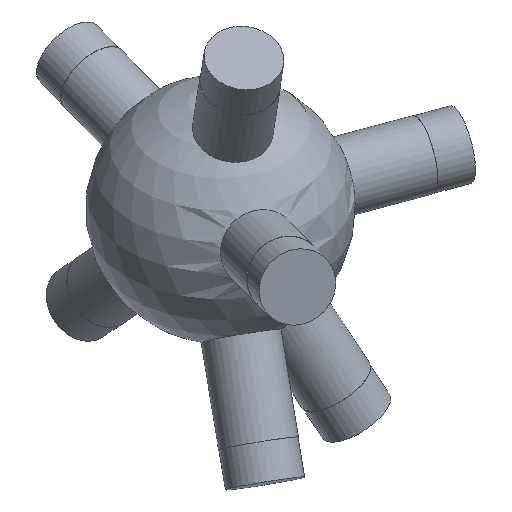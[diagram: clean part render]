
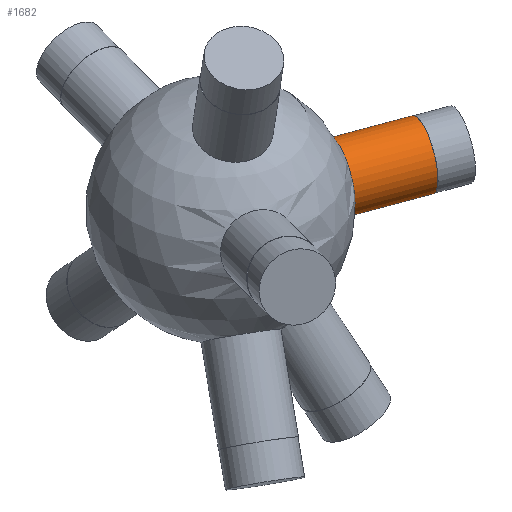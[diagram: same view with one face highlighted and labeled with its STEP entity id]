
A CAD part, isometric view. The second image highlights one B-rep face of the part: STEP entity #1682.
In plain terms, the highlighted cylindrical face has radius 6 mm (diameter 12 mm), a full revolution.
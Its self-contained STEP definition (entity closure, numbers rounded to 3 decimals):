
#37 = SPHERICAL_SURFACE('',#38,20.);
#38 = AXIS2_PLACEMENT_3D('',#39,#40,#41);
#39 = CARTESIAN_POINT('',(0.,0.,0.));
#40 = DIRECTION('',(0.,0.,1.));
#41 = DIRECTION('',(1.,0.,-0.));
#826 = EDGE_CURVE('',#827,#827,#829,.T.);
#827 = VERTEX_POINT('',#828);
#828 = CARTESIAN_POINT('',(19.875,-2.069,
    0.845));
#829 = SURFACE_CURVE('',#830,(#835,#897),.PCURVE_S1.);
#830 = CIRCLE('',#831,6.);
#831 = AXIS2_PLACEMENT_3D('',#832,#833,#834);
#832 = CARTESIAN_POINT('',(17.49,-7.575,
    0.845));
#833 = DIRECTION('',(0.917,-0.397,0.044)
  );
#834 = DIRECTION('',(0.397,0.918,0.));
#835 = PCURVE('',#37,#836);
#836 = DEFINITIONAL_REPRESENTATION('',(#837),#896);
#837 = B_SPLINE_CURVE_WITH_KNOTS('',8,(#838,#839,#840,#841,#842,#843,
    #844,#845,#846,#847,#848,#849,#850,#851,#852,#853,#854,#855,#856,
    #857,#858,#859,#860,#861,#862,#863,#864,#865,#866,#867,#868,#869,
    #870,#871,#872,#873,#874,#875,#876,#877,#878,#879,#880,#881,#882,
    #883,#884,#885,#886,#887,#888,#889,#890,#891,#892,#893,#894,#895),
  .UNSPECIFIED.,.F.,.F.,(9,7,7,7,7,7,7,7,9),(0.,0.785,
    1.473,2.074,3.126,3.915,
    4.507,5.395,6.283),.UNSPECIFIED.);
#838 = CARTESIAN_POINT('',(6.179,0.042));
#839 = CARTESIAN_POINT('',(6.18,0.072));
#840 = CARTESIAN_POINT('',(6.177,0.101));
#841 = CARTESIAN_POINT('',(6.171,0.13));
#842 = CARTESIAN_POINT('',(6.162,0.159));
#843 = CARTESIAN_POINT('',(6.15,0.186));
#844 = CARTESIAN_POINT('',(6.135,0.212));
#845 = CARTESIAN_POINT('',(6.116,0.235));
#846 = CARTESIAN_POINT('',(6.077,0.276));
#847 = CARTESIAN_POINT('',(6.057,0.293));
#848 = CARTESIAN_POINT('',(6.035,0.308));
#849 = CARTESIAN_POINT('',(6.011,0.321));
#850 = CARTESIAN_POINT('',(5.986,0.331));
#851 = CARTESIAN_POINT('',(5.96,0.339));
#852 = CARTESIAN_POINT('',(5.933,0.345));
#853 = CARTESIAN_POINT('',(5.882,0.35));
#854 = CARTESIAN_POINT('',(5.858,0.35));
#855 = CARTESIAN_POINT('',(5.834,0.348));
#856 = CARTESIAN_POINT('',(5.81,0.344));
#857 = CARTESIAN_POINT('',(5.787,0.339));
#858 = CARTESIAN_POINT('',(5.764,0.331));
#859 = CARTESIAN_POINT('',(5.742,0.321));
#860 = CARTESIAN_POINT('',(5.686,0.29));
#861 = CARTESIAN_POINT('',(5.654,0.264));
#862 = CARTESIAN_POINT('',(5.626,0.235));
#863 = CARTESIAN_POINT('',(5.604,0.201));
#864 = CARTESIAN_POINT('',(5.587,0.164));
#865 = CARTESIAN_POINT('',(5.575,0.126));
#866 = CARTESIAN_POINT('',(5.57,0.086));
#867 = CARTESIAN_POINT('',(5.569,0.017));
#868 = CARTESIAN_POINT('',(5.573,-0.012));
#869 = CARTESIAN_POINT('',(5.579,-0.042));
#870 = CARTESIAN_POINT('',(5.588,-0.07));
#871 = CARTESIAN_POINT('',(5.601,-0.097));
#872 = CARTESIAN_POINT('',(5.616,-0.123));
#873 = CARTESIAN_POINT('',(5.634,-0.147));
#874 = CARTESIAN_POINT('',(5.671,-0.184));
#875 = CARTESIAN_POINT('',(5.688,-0.199));
#876 = CARTESIAN_POINT('',(5.706,-0.212));
#877 = CARTESIAN_POINT('',(5.725,-0.224));
#878 = CARTESIAN_POINT('',(5.746,-0.234));
#879 = CARTESIAN_POINT('',(5.767,-0.243));
#880 = CARTESIAN_POINT('',(5.789,-0.249));
#881 = CARTESIAN_POINT('',(5.845,-0.261));
#882 = CARTESIAN_POINT('',(5.88,-0.264));
#883 = CARTESIAN_POINT('',(5.915,-0.262));
#884 = CARTESIAN_POINT('',(5.949,-0.256));
#885 = CARTESIAN_POINT('',(5.982,-0.245));
#886 = CARTESIAN_POINT('',(6.014,-0.231));
#887 = CARTESIAN_POINT('',(6.043,-0.213));
#888 = CARTESIAN_POINT('',(6.095,-0.17));
#889 = CARTESIAN_POINT('',(6.118,-0.145));
#890 = CARTESIAN_POINT('',(6.137,-0.118));
#891 = CARTESIAN_POINT('',(6.154,-0.088));
#892 = CARTESIAN_POINT('',(6.166,-0.057));
#893 = CARTESIAN_POINT('',(6.175,-0.024));
#894 = CARTESIAN_POINT('',(6.179,0.009));
#895 = CARTESIAN_POINT('',(6.179,0.042));
#896 = ( GEOMETRIC_REPRESENTATION_CONTEXT(2) 
PARAMETRIC_REPRESENTATION_CONTEXT() REPRESENTATION_CONTEXT('2D SPACE',''
  ) );
#897 = PCURVE('',#898,#903);
#898 = CYLINDRICAL_SURFACE('',#899,6.);
#899 = AXIS2_PLACEMENT_3D('',#900,#901,#902);
#900 = CARTESIAN_POINT('',(0.,0.,0.));
#901 = DIRECTION('',(0.917,-0.397,0.044)
  );
#902 = DIRECTION('',(0.397,0.918,0.));
#903 = DEFINITIONAL_REPRESENTATION('',(#904),#908);
#904 = LINE('',#905,#906);
#905 = CARTESIAN_POINT('',(0.,19.079));
#906 = VECTOR('',#907,1.);
#907 = DIRECTION('',(1.,0.));
#908 = ( GEOMETRIC_REPRESENTATION_CONTEXT(2) 
PARAMETRIC_REPRESENTATION_CONTEXT() REPRESENTATION_CONTEXT('2D SPACE',''
  ) );
#1682 = ADVANCED_FACE('',(#1683),#898,.T.);
#1683 = FACE_BOUND('',#1684,.T.);
#1684 = EDGE_LOOP('',(#1685,#1708,#1735,#1736));
#1685 = ORIENTED_EDGE('',*,*,#1686,.T.);
#1686 = EDGE_CURVE('',#827,#1687,#1689,.T.);
#1687 = VERTEX_POINT('',#1688);
#1688 = CARTESIAN_POINT('',(32.02,-7.329,
    1.431));
#1689 = SEAM_CURVE('',#1690,(#1694,#1701),.PCURVE_S1.);
#1690 = LINE('',#1691,#1692);
#1691 = CARTESIAN_POINT('',(2.384,5.506,
    0.));
#1692 = VECTOR('',#1693,1.);
#1693 = DIRECTION('',(0.917,-0.397,0.044)
  );
#1694 = PCURVE('',#898,#1695);
#1695 = DEFINITIONAL_REPRESENTATION('',(#1696),#1700);
#1696 = LINE('',#1697,#1698);
#1697 = CARTESIAN_POINT('',(6.283,-0.));
#1698 = VECTOR('',#1699,1.);
#1699 = DIRECTION('',(0.,1.));
#1700 = ( GEOMETRIC_REPRESENTATION_CONTEXT(2) 
PARAMETRIC_REPRESENTATION_CONTEXT() REPRESENTATION_CONTEXT('2D SPACE',''
  ) );
#1701 = PCURVE('',#898,#1702);
#1702 = DEFINITIONAL_REPRESENTATION('',(#1703),#1707);
#1703 = LINE('',#1704,#1705);
#1704 = CARTESIAN_POINT('',(0.,-0.));
#1705 = VECTOR('',#1706,1.);
#1706 = DIRECTION('',(0.,1.));
#1707 = ( GEOMETRIC_REPRESENTATION_CONTEXT(2) 
PARAMETRIC_REPRESENTATION_CONTEXT() REPRESENTATION_CONTEXT('2D SPACE',''
  ) );
#1708 = ORIENTED_EDGE('',*,*,#1709,.F.);
#1709 = EDGE_CURVE('',#1687,#1687,#1710,.T.);
#1710 = SURFACE_CURVE('',#1711,(#1716,#1723),.PCURVE_S1.);
#1711 = CIRCLE('',#1712,6.);
#1712 = AXIS2_PLACEMENT_3D('',#1713,#1714,#1715);
#1713 = CARTESIAN_POINT('',(29.636,-12.835,
    1.431));
#1714 = DIRECTION('',(0.917,-0.397,0.044)
  );
#1715 = DIRECTION('',(0.397,0.918,0.)
  );
#1716 = PCURVE('',#898,#1717);
#1717 = DEFINITIONAL_REPRESENTATION('',(#1718),#1722);
#1718 = LINE('',#1719,#1720);
#1719 = CARTESIAN_POINT('',(0.,32.327));
#1720 = VECTOR('',#1721,1.);
#1721 = DIRECTION('',(1.,0.));
#1722 = ( GEOMETRIC_REPRESENTATION_CONTEXT(2) 
PARAMETRIC_REPRESENTATION_CONTEXT() REPRESENTATION_CONTEXT('2D SPACE',''
  ) );
#1723 = PCURVE('',#1724,#1729);
#1724 = PLANE('',#1725);
#1725 = AXIS2_PLACEMENT_3D('',#1726,#1727,#1728);
#1726 = CARTESIAN_POINT('',(29.636,-12.835,
    1.431));
#1727 = DIRECTION('',(0.917,-0.397,0.044)
  );
#1728 = DIRECTION('',(0.397,0.918,0.));
#1729 = DEFINITIONAL_REPRESENTATION('',(#1730),#1734);
#1730 = CIRCLE('',#1731,6.);
#1731 = AXIS2_PLACEMENT_2D('',#1732,#1733);
#1732 = CARTESIAN_POINT('',(0.,0.));
#1733 = DIRECTION('',(1.,0.));
#1734 = ( GEOMETRIC_REPRESENTATION_CONTEXT(2) 
PARAMETRIC_REPRESENTATION_CONTEXT() REPRESENTATION_CONTEXT('2D SPACE',''
  ) );
#1735 = ORIENTED_EDGE('',*,*,#1686,.F.);
#1736 = ORIENTED_EDGE('',*,*,#826,.T.);
